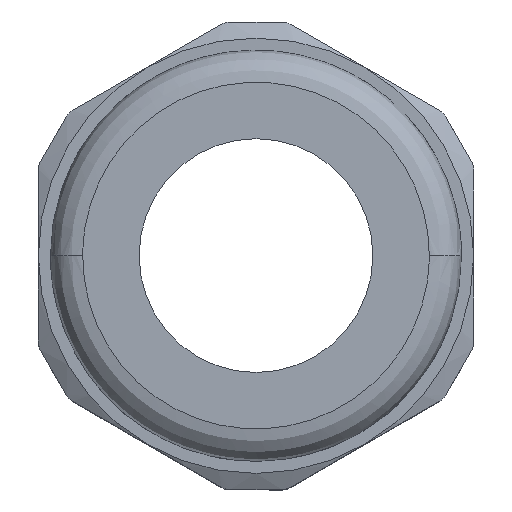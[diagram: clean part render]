
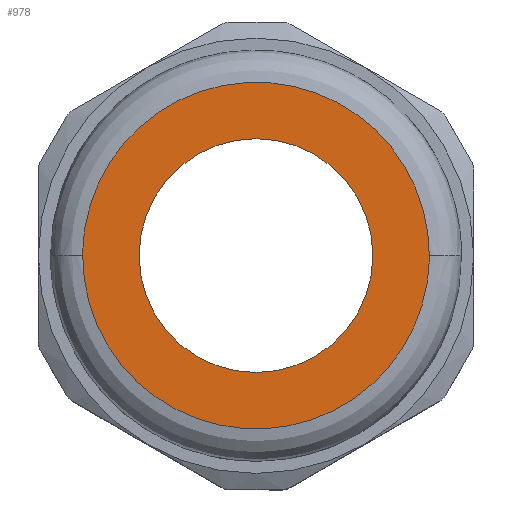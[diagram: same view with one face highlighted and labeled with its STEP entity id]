
A CAD part, top view. The second image highlights one B-rep face of the part: STEP entity #978.
In plain terms, the highlighted planar face has unit normal (0, 0, 1).
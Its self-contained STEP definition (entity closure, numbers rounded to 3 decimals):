
#157 = CARTESIAN_POINT ( 'NONE',  ( 1.403, 10.681, 10.5 ) ) ;
#913 = CARTESIAN_POINT ( 'NONE',  ( 4.764, -9.663, 10.5 ) ) ;
#978 = ADVANCED_FACE ( 'NONE', ( #12642, #8415 ), #11762, .T. ) ;
#982 = CARTESIAN_POINT ( 'NONE',  ( 9.663, -4.764, 10.5 ) ) ;
#1045 = CARTESIAN_POINT ( 'NONE',  ( 3.464, 10.201, 10.5 ) ) ;
#1118 = CARTESIAN_POINT ( 'NONE',  ( 10.681, 1.403, 10.5 ) ) ;
#1198 = VERTEX_POINT ( 'NONE', #14104 ) ;
#1408 = DIRECTION ( 'NONE',  ( -1., 0., 0. ) ) ;
#1415 = CARTESIAN_POINT ( 'NONE',  ( -10.75, -0.703, 10.5 ) ) ;
#1856 = ORIENTED_EDGE ( 'NONE', *, *, #6704, .T. ) ;
#2089 = CARTESIAN_POINT ( 'NONE',  ( -10.405, -2.791, 10.5 ) ) ;
#2228 = CARTESIAN_POINT ( 'NONE',  ( -10.405, 2.791, 10.5 ) ) ;
#2365 = CARTESIAN_POINT ( 'NONE',  ( 5.384, -9.331, 10.5 ) ) ;
#2450 = CARTESIAN_POINT ( 'NONE',  ( 10.201, 3.464, 10.5 ) ) ;
#2590 = CARTESIAN_POINT ( 'NONE',  ( -1.403, -10.681, 10.5 ) ) ;
#2620 = DIRECTION ( 'NONE',  ( 0., 0., 1. ) ) ;
#2655 = DIRECTION ( 'NONE',  ( 0., 0., -1. ) ) ;
#3184 = CIRCLE ( 'NONE', #7660, 7.25 ) ;
#3186 = CARTESIAN_POINT ( 'NONE',  ( 6.56, -8.545, 10.5 ) ) ;
#3253 = CARTESIAN_POINT ( 'NONE',  ( -10.201, 3.464, 10.5 ) ) ;
#3324 = CARTESIAN_POINT ( 'NONE',  ( -9.331, 5.384, 10.5 ) ) ;
#3460 = CARTESIAN_POINT ( 'NONE',  ( -7.104, -8.099, 10.5 ) ) ;
#3467 = CARTESIAN_POINT ( 'NONE',  ( -10.681, 1.403, 10.5 ) ) ;
#3545 = CARTESIAN_POINT ( 'NONE',  ( 10.405, 2.791, 10.5 ) ) ;
#3609 = CARTESIAN_POINT ( 'NONE',  ( -9.663, -4.764, 10.5 ) ) ;
#3680 = CARTESIAN_POINT ( 'NONE',  ( -4.764, -9.663, 10.5 ) ) ;
#4282 = CARTESIAN_POINT ( 'NONE',  ( -10.681, -1.403, 10.5 ) ) ;
#4348 = CARTESIAN_POINT ( 'NONE',  ( -6.56, 8.545, 10.5 ) ) ;
#4353 = CARTESIAN_POINT ( 'NONE',  ( 10.201, -3.464, 10.5 ) ) ;
#4568 = CARTESIAN_POINT ( 'NONE',  ( -7.104, 8.099, 10.5 ) ) ;
#4637 = CARTESIAN_POINT ( 'NONE',  ( -9.331, -5.384, 10.5 ) ) ;
#5397 = CARTESIAN_POINT ( 'NONE',  ( -10.201, -3.464, 10.5 ) ) ;
#5465 = CARTESIAN_POINT ( 'NONE',  ( -3.464, -10.201, 10.5 ) ) ;
#5528 = CARTESIAN_POINT ( 'NONE',  ( -1.403, 10.681, 10.5 ) ) ;
#5601 = CARTESIAN_POINT ( 'NONE',  ( 9.331, 5.384, 10.5 ) ) ;
#5735 = CARTESIAN_POINT ( 'NONE',  ( 8.545, -6.56, 10.5 ) ) ;
#5984 = CARTESIAN_POINT ( 'NONE',  ( 0., 0., 10.5 ) ) ;
#6211 = DIRECTION ( 'NONE',  ( 1., 0., 0. ) ) ;
#6304 = VERTEX_POINT ( 'NONE', #10099 ) ;
#6571 = CARTESIAN_POINT ( 'NONE',  ( -8.545, -6.56, 10.5 ) ) ;
#6704 = EDGE_CURVE ( 'NONE', #1198, #9329, #11898, .T. ) ;
#6844 = CARTESIAN_POINT ( 'NONE',  ( 10.75, -0.703, 10.5 ) ) ;
#6905 = AXIS2_PLACEMENT_3D ( 'NONE', #7248, #2620, #6211 ) ;
#6928 = CARTESIAN_POINT ( 'NONE',  ( 6.56, 8.545, 10.5 ) ) ;
#7071 = CARTESIAN_POINT ( 'NONE',  ( 0.703, -10.75, 10.5 ) ) ;
#7248 = CARTESIAN_POINT ( 'NONE',  ( 0., 12.75, 10.5 ) ) ;
#7499 = EDGE_CURVE ( 'NONE', #9571, #6304, #7859, .T. ) ;
#7660 = AXIS2_PLACEMENT_3D ( 'NONE', #8174, #2655, #1408 ) ;
#7681 = CARTESIAN_POINT ( 'NONE',  ( 9.331, -5.384, 10.5 ) ) ;
#7746 = CARTESIAN_POINT ( 'NONE',  ( -10.75, 0.704, 10.5 ) ) ;
#7859 = CIRCLE ( 'NONE', #9508, 7.25 ) ;
#7886 = CARTESIAN_POINT ( 'NONE',  ( -8.099, 7.104, 10.5 ) ) ;
#8039 = CARTESIAN_POINT ( 'NONE',  ( 10.75, 0., 10.5 ) ) ;
#8174 = CARTESIAN_POINT ( 'NONE',  ( 0., 0., 10.5 ) ) ;
#8180 = CARTESIAN_POINT ( 'NONE',  ( -2.791, -10.405, 10.5 ) ) ;
#8415 = FACE_BOUND ( 'NONE', #10459, .T. ) ;
#8777 = CARTESIAN_POINT ( 'NONE',  ( -5.384, -9.331, 10.5 ) ) ;
#8829 = EDGE_LOOP ( 'NONE', ( #1856, #9099 ) ) ;
#8843 = CARTESIAN_POINT ( 'NONE',  ( 7.104, 8.099, 10.5 ) ) ;
#8848 = CARTESIAN_POINT ( 'NONE',  ( 10.405, -2.791, 10.5 ) ) ;
#9059 = CARTESIAN_POINT ( 'NONE',  ( 8.099, 7.104, 10.5 ) ) ;
#9099 = ORIENTED_EDGE ( 'NONE', *, *, #9706, .T. ) ;
#9135 = CARTESIAN_POINT ( 'NONE',  ( 2.791, 10.405, 10.5 ) ) ;
#9192 = ORIENTED_EDGE ( 'NONE', *, *, #7499, .T. ) ;
#9294 = CARTESIAN_POINT ( 'NONE',  ( 10.75, 0., 10.5 ) ) ;
#9329 = VERTEX_POINT ( 'NONE', #9294 ) ;
#9508 = AXIS2_PLACEMENT_3D ( 'NONE', #5984, #10594, #10367 ) ;
#9571 = VERTEX_POINT ( 'NONE', #11827 ) ;
#9706 = EDGE_CURVE ( 'NONE', #9329, #1198, #11625, .T. ) ;
#9870 = CARTESIAN_POINT ( 'NONE',  ( 8.099, -7.104, 10.5 ) ) ;
#9937 = CARTESIAN_POINT ( 'NONE',  ( 2.791, -10.405, 10.5 ) ) ;
#10005 = CARTESIAN_POINT ( 'NONE',  ( -5.384, 9.331, 10.5 ) ) ;
#10077 = CARTESIAN_POINT ( 'NONE',  ( 0.703, 10.75, 10.5 ) ) ;
#10099 = CARTESIAN_POINT ( 'NONE',  ( -7.25, 0., 10.5 ) ) ;
#10215 = CARTESIAN_POINT ( 'NONE',  ( 9.663, 4.764, 10.5 ) ) ;
#10367 = DIRECTION ( 'NONE',  ( -1., 0., 0. ) ) ;
#10400 = EDGE_CURVE ( 'NONE', #6304, #9571, #3184, .T. ) ;
#10459 = EDGE_LOOP ( 'NONE', ( #11563, #9192 ) ) ;
#10594 = DIRECTION ( 'NONE',  ( 0., 0., -1. ) ) ;
#11020 = CARTESIAN_POINT ( 'NONE',  ( 1.403, -10.681, 10.5 ) ) ;
#11084 = CARTESIAN_POINT ( 'NONE',  ( 8.545, 6.56, 10.5 ) ) ;
#11294 = CARTESIAN_POINT ( 'NONE',  ( 10.75, 0., 10.5 ) ) ;
#11360 = CARTESIAN_POINT ( 'NONE',  ( -6.56, -8.545, 10.5 ) ) ;
#11374 = CARTESIAN_POINT ( 'NONE',  ( -0.703, 10.75, 10.5 ) ) ;
#11563 = ORIENTED_EDGE ( 'NONE', *, *, #10400, .T. ) ;
#11625 = B_SPLINE_CURVE_WITH_KNOTS ( 'NONE', 3,
 ( #8039, #12394, #1118, #3545, #2450, #10215, #5601, #11084, #9059, #8843, #6928, #13499, #14452, #1045, #9135, #157, #10077, #11374, #5528, #13345, #14385, #13577, #10005, #4348, #4568, #7886, #12255, #3324, #13275, #3253, #2228, #3467, #7746, #12185 ),
 .UNSPECIFIED., .F., .F.,
 ( 4, 2, 2, 2, 2, 2, 2, 2, 2, 2, 2, 2, 2, 2, 2, 2, 4 ),
 ( 0.5, 0.531, 0.562, 0.594, 0.625, 0.656, 0.687, 0.719, 0.75, 0.781, 0.812, 0.844, 0.875, 0.906, 0.938, 0.969, 1. ),
 .UNSPECIFIED. ) ;
#11762 = PLANE ( 'NONE',  #6905 ) ;
#11827 = CARTESIAN_POINT ( 'NONE',  ( 7.25, 0., 10.5 ) ) ;
#11898 = B_SPLINE_CURVE_WITH_KNOTS ( 'NONE', 3,
 ( #12610, #1415, #4282, #2089, #5397, #3609, #4637, #6571, #13711, #3460, #11360, #8777, #3680, #5465, #8180, #2590, #14390, #7071, #11020, #9937, #12385, #913, #2365, #3186, #13567, #9870, #5735, #7681, #982, #4353, #8848, #13489, #6844, #11294 ),
 .UNSPECIFIED., .F., .F.,
 ( 4, 2, 2, 2, 2, 2, 2, 2, 2, 2, 2, 2, 2, 2, 2, 2, 4 ),
 ( 0., 0.031, 0.063, 0.094, 0.125, 0.156, 0.187, 0.219, 0.25, 0.281, 0.312, 0.344, 0.375, 0.406, 0.437, 0.469, 0.5 ),
 .UNSPECIFIED. ) ;
#12185 = CARTESIAN_POINT ( 'NONE',  ( -10.75, 0., 10.5 ) ) ;
#12255 = CARTESIAN_POINT ( 'NONE',  ( -8.545, 6.56, 10.5 ) ) ;
#12385 = CARTESIAN_POINT ( 'NONE',  ( 3.464, -10.201, 10.5 ) ) ;
#12394 = CARTESIAN_POINT ( 'NONE',  ( 10.75, 0.703, 10.5 ) ) ;
#12610 = CARTESIAN_POINT ( 'NONE',  ( -10.75, 0., 10.5 ) ) ;
#12642 = FACE_OUTER_BOUND ( 'NONE', #8829, .T. ) ;
#13275 = CARTESIAN_POINT ( 'NONE',  ( -9.663, 4.764, 10.5 ) ) ;
#13345 = CARTESIAN_POINT ( 'NONE',  ( -2.791, 10.405, 10.5 ) ) ;
#13489 = CARTESIAN_POINT ( 'NONE',  ( 10.681, -1.403, 10.5 ) ) ;
#13499 = CARTESIAN_POINT ( 'NONE',  ( 5.384, 9.331, 10.5 ) ) ;
#13567 = CARTESIAN_POINT ( 'NONE',  ( 7.104, -8.099, 10.5 ) ) ;
#13577 = CARTESIAN_POINT ( 'NONE',  ( -4.764, 9.663, 10.5 ) ) ;
#13711 = CARTESIAN_POINT ( 'NONE',  ( -8.099, -7.104, 10.5 ) ) ;
#14104 = CARTESIAN_POINT ( 'NONE',  ( -10.75, 0., 10.5 ) ) ;
#14385 = CARTESIAN_POINT ( 'NONE',  ( -3.464, 10.201, 10.5 ) ) ;
#14390 = CARTESIAN_POINT ( 'NONE',  ( -0.703, -10.75, 10.5 ) ) ;
#14452 = CARTESIAN_POINT ( 'NONE',  ( 4.764, 9.663, 10.5 ) ) ;
